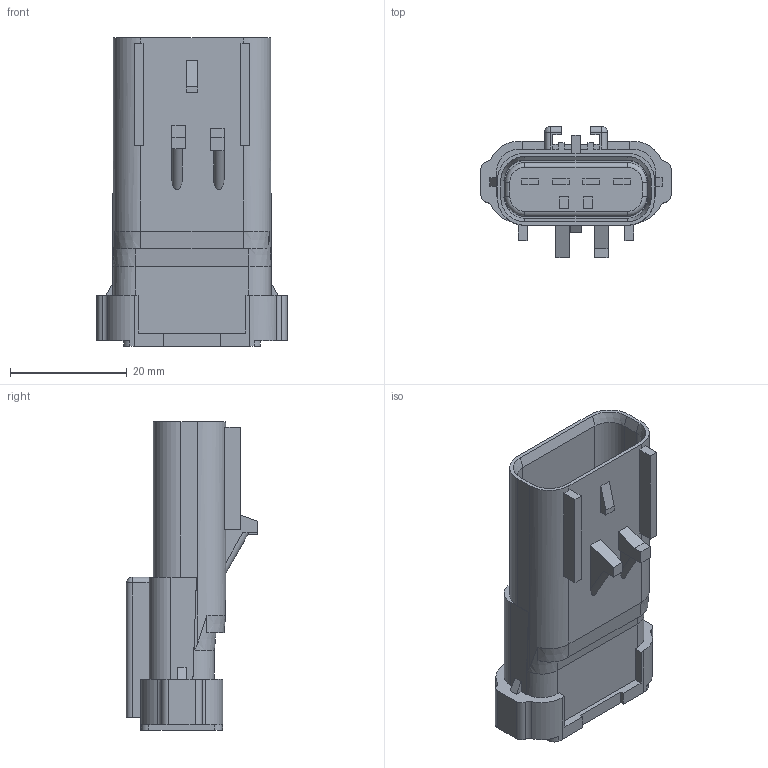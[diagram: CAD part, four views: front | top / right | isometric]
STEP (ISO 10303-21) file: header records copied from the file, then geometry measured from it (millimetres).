
FILE_DESCRIPTION(/* description */ (''),/* implementation_level */ '2;1');
FILE_NAME(/* name */ '13754761_ENV10_01.stp',/* time_stamp */ '2021-05-18T22:05:29+06:00',/* author */ (''),/* organization */ (''),/* preprocessor_version */ 'ST-DEVELOPER v16.7',/* originating_system */ 'SIEMENS PLM Software NX 12.0',/* authorisation */ '');
FILE_SCHEMA (('AP203_CONFIGURATION_CONTROLLED_3D_DESIGN_OF_MECHANICAL_PARTS_AND_ASSEMBLIES_MIM_LF { 1 0 10303 403 2 1 2}'));
Length unit declared in the file: millimetre
Products named in the file (1): qzs53AF8102Bb8pf
Bounding box: 32.6 x 22.51 x 53 mm (x, y, z)
Volume: 12920.5 mm3; surface area: 9190.2 mm2
Topology: 1 solids, 1 shells, 262 faces, 698 edges, 453 vertices
Faces by surface type: plane 198, cylinder 48, cone 8, torus 4, sphere 2, extrusion 2
Entity records: 8244 total; most frequent: CARTESIAN_POINT 1534, ORIENTED_EDGE 1396, DIRECTION 1330, EDGE_CURVE 698, VECTOR 568, LINE 566, VERTEX_POINT 453, AXIS2_PLACEMENT_3D 381
